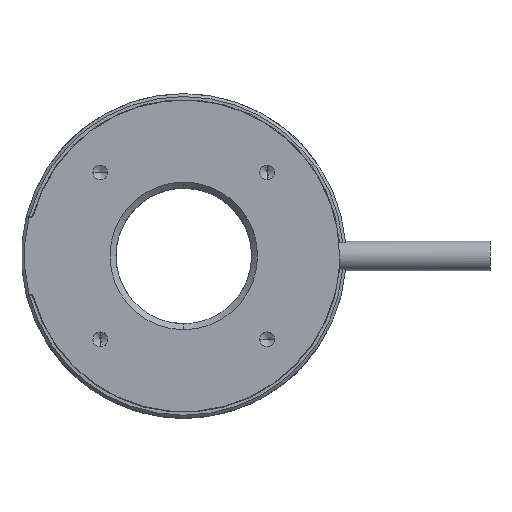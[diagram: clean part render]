
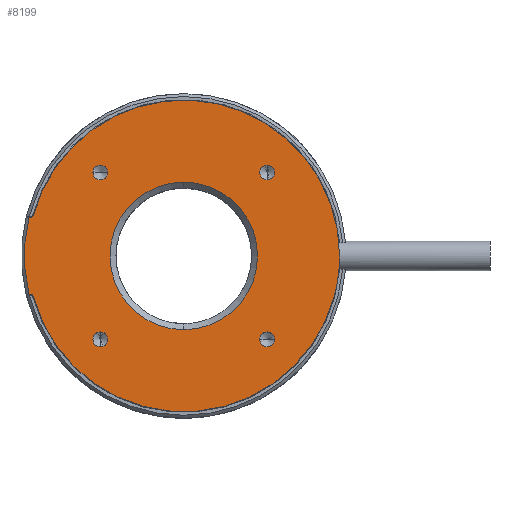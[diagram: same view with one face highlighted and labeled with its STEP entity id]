
A CAD part, top view. The second image highlights one B-rep face of the part: STEP entity #8199.
In plain terms, the highlighted planar face has unit normal (0, 0, 1).
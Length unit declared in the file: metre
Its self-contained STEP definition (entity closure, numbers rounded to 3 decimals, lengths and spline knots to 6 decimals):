
#1469=CARTESIAN_POINT('',(0.,0.,0.002));
#1470=DIRECTION('',(0.,0.,-1.));
#1471=DIRECTION('',(0.,1.,0.));
#1472=AXIS2_PLACEMENT_3D('',#1469,#1470,#1471);
#1474=CARTESIAN_POINT('',(0.,0.,0.002));
#1475=DIRECTION('',(0.,0.,-1.));
#1476=DIRECTION('',(0.,-1.,0.));
#1477=AXIS2_PLACEMENT_3D('',#1474,#1475,#1476);
#1479=CARTESIAN_POINT('',(0.014142,0.014142,0.002));
#1480=DIRECTION('',(0.,0.,-1.));
#1481=DIRECTION('',(0.,1.,0.));
#1482=AXIS2_PLACEMENT_3D('',#1479,#1480,#1481);
#1484=CARTESIAN_POINT('',(0.014142,0.014142,0.002));
#1485=DIRECTION('',(0.,0.,-1.));
#1486=DIRECTION('',(0.,-1.,0.));
#1487=AXIS2_PLACEMENT_3D('',#1484,#1485,#1486);
#1489=CARTESIAN_POINT('',(-0.014142,0.014142,0.002));
#1490=DIRECTION('',(0.,0.,-1.));
#1491=DIRECTION('',(-1.,0.,0.));
#1492=AXIS2_PLACEMENT_3D('',#1489,#1490,#1491);
#1494=CARTESIAN_POINT('',(-0.014142,0.014142,0.002));
#1495=DIRECTION('',(0.,0.,-1.));
#1496=DIRECTION('',(1.,0.,0.));
#1497=AXIS2_PLACEMENT_3D('',#1494,#1495,#1496);
#1499=CARTESIAN_POINT('',(-0.014142,-0.014142,0.002));
#1500=DIRECTION('',(0.,0.,-1.));
#1501=DIRECTION('',(0.,-1.,0.));
#1502=AXIS2_PLACEMENT_3D('',#1499,#1500,#1501);
#1504=CARTESIAN_POINT('',(-0.014142,-0.014142,0.002));
#1505=DIRECTION('',(0.,0.,-1.));
#1506=DIRECTION('',(0.,1.,0.));
#1507=AXIS2_PLACEMENT_3D('',#1504,#1505,#1506);
#1509=CARTESIAN_POINT('',(0.014142,-0.014142,0.002));
#1510=DIRECTION('',(0.,0.,-1.));
#1511=DIRECTION('',(1.,0.,0.));
#1512=AXIS2_PLACEMENT_3D('',#1509,#1510,#1511);
#1514=CARTESIAN_POINT('',(0.014142,-0.014142,0.002));
#1515=DIRECTION('',(0.,0.,-1.));
#1516=DIRECTION('',(-1.,0.,0.));
#1517=AXIS2_PLACEMENT_3D('',#1514,#1515,#1516);
#1519=CARTESIAN_POINT('',(-0.025973,0.007,0.002));
#1520=DIRECTION('',(0.,0.,-1.));
#1521=DIRECTION('',(0.966,-0.26,0.));
#1522=AXIS2_PLACEMENT_3D('',#1519,#1520,#1521);
#1524=CARTESIAN_POINT('',(0.,0.,0.002));
#1525=DIRECTION('',(0.,0.,1.));
#1526=DIRECTION('',(1.,0.,0.));
#1527=AXIS2_PLACEMENT_3D('',#1524,#1525,#1526);
#1529=CARTESIAN_POINT('',(0.,0.,0.002));
#1530=DIRECTION('',(0.,0.,1.));
#1531=DIRECTION('',(0.966,-0.26,0.));
#1532=AXIS2_PLACEMENT_3D('',#1529,#1530,#1531);
#1534=CARTESIAN_POINT('',(0.,0.,0.002));
#1535=DIRECTION('',(0.,0.,1.));
#1536=DIRECTION('',(-0.966,-0.26,0.));
#1537=AXIS2_PLACEMENT_3D('',#1534,#1535,#1536);
#1539=CARTESIAN_POINT('',(-0.025973,-0.007,0.002));
#1540=DIRECTION('',(0.,0.,-1.));
#1541=DIRECTION('',(0.,1.,0.));
#1542=AXIS2_PLACEMENT_3D('',#1539,#1540,#1541);
#1544=CARTESIAN_POINT('',(0.,0.,0.002));
#1545=DIRECTION('',(0.,0.,1.));
#1546=DIRECTION('',(-0.971,0.241,0.));
#1547=AXIS2_PLACEMENT_3D('',#1544,#1545,#1546);
#1661=DIRECTION('',(1.,0.,0.));
#1662=VECTOR('',#1661,0.000233);
#1663=CARTESIAN_POINT('',(-0.026206,0.0065,0.002));
#1664=LINE('',#1663,#1662);
#4640=DIRECTION('',(-1.,0.,0.));
#4641=VECTOR('',#4640,0.000233);
#4642=CARTESIAN_POINT('',(-0.025973,-0.0065,0.002));
#4643=LINE('',#4642,#4641);
#4949=CARTESIAN_POINT('',(-0.02549,-0.00687,0.002));
#4950=CARTESIAN_POINT('',(0.02549,-0.00687,0.002));
#4951=VERTEX_POINT('',#4949);
#4952=VERTEX_POINT('',#4950);
#4953=CARTESIAN_POINT('',(0.0264,0.,0.002));
#4954=VERTEX_POINT('',#4953);
#4955=CARTESIAN_POINT('',(-0.02549,0.00687,0.002));
#4956=VERTEX_POINT('',#4955);
#4957=CARTESIAN_POINT('',(-0.025973,-0.0065,0.002));
#4958=VERTEX_POINT('',#4957);
#4959=CARTESIAN_POINT('',(-0.026206,-0.0065,0.002));
#4960=VERTEX_POINT('',#4959);
#4961=CARTESIAN_POINT('',(-0.026206,0.0065,0.002));
#4962=VERTEX_POINT('',#4961);
#4963=CARTESIAN_POINT('',(-0.025973,0.0065,0.002));
#4964=VERTEX_POINT('',#4963);
#4965=CARTESIAN_POINT('',(0.012892,-0.014142,0.002));
#4966=CARTESIAN_POINT('',(0.015392,-0.014142,0.002));
#4967=VERTEX_POINT('',#4965);
#4968=VERTEX_POINT('',#4966);
#4969=CARTESIAN_POINT('',(-0.014142,-0.012892,0.002));
#4970=CARTESIAN_POINT('',(-0.014142,-0.015392,0.002));
#4971=VERTEX_POINT('',#4969);
#4972=VERTEX_POINT('',#4970);
#4973=CARTESIAN_POINT('',(-0.012892,0.014142,0.002));
#4974=CARTESIAN_POINT('',(-0.015392,0.014142,0.002));
#4975=VERTEX_POINT('',#4973);
#4976=VERTEX_POINT('',#4974);
#4977=CARTESIAN_POINT('',(0.014142,0.012892,0.002));
#4978=CARTESIAN_POINT('',(0.014142,0.015392,0.002));
#4979=VERTEX_POINT('',#4977);
#4980=VERTEX_POINT('',#4978);
#4981=CARTESIAN_POINT('',(0.,-0.0125,0.002));
#4982=CARTESIAN_POINT('',(0.,0.0125,0.002));
#4983=VERTEX_POINT('',#4981);
#4984=VERTEX_POINT('',#4982);
#8148=CARTESIAN_POINT('',(0.,0.,0.002));
#8149=DIRECTION('',(0.,0.,-1.));
#8150=DIRECTION('',(0.,1.,0.));
#8151=AXIS2_PLACEMENT_3D('',#8148,#8149,#8150);
#8152=PLANE('',#8151);
#8154=ORIENTED_EDGE('',*,*,#8153,.F.);
#8156=ORIENTED_EDGE('',*,*,#8155,.F.);
#8158=ORIENTED_EDGE('',*,*,#8157,.F.);
#8160=ORIENTED_EDGE('',*,*,#8159,.F.);
#8162=ORIENTED_EDGE('',*,*,#8161,.F.);
#8164=ORIENTED_EDGE('',*,*,#8163,.T.);
#8166=ORIENTED_EDGE('',*,*,#8165,.F.);
#8168=ORIENTED_EDGE('',*,*,#8167,.T.);
#8169=EDGE_LOOP('',(#8154,#8156,#8158,#8160,#8162,#8164,#8166,#8168));
#8170=FACE_OUTER_BOUND('',#8169,.F.);
#8172=ORIENTED_EDGE('',*,*,#8171,.F.);
#8174=ORIENTED_EDGE('',*,*,#8173,.F.);
#8175=EDGE_LOOP('',(#8172,#8174));
#8176=FACE_BOUND('',#8175,.F.);
#8178=ORIENTED_EDGE('',*,*,#8177,.F.);
#8180=ORIENTED_EDGE('',*,*,#8179,.F.);
#8181=EDGE_LOOP('',(#8178,#8180));
#8182=FACE_BOUND('',#8181,.F.);
#8184=ORIENTED_EDGE('',*,*,#8183,.F.);
#8186=ORIENTED_EDGE('',*,*,#8185,.F.);
#8187=EDGE_LOOP('',(#8184,#8186));
#8188=FACE_BOUND('',#8187,.F.);
#8190=ORIENTED_EDGE('',*,*,#8189,.F.);
#8192=ORIENTED_EDGE('',*,*,#8191,.F.);
#8193=EDGE_LOOP('',(#8190,#8192));
#8194=FACE_BOUND('',#8193,.F.);
#8195=ORIENTED_EDGE('',*,*,#8141,.F.);
#8196=ORIENTED_EDGE('',*,*,#8127,.F.);
#8197=EDGE_LOOP('',(#8195,#8196));
#8198=FACE_BOUND('',#8197,.F.);
#8199=ADVANCED_FACE('',(#8170,#8176,#8182,#8188,#8194,#8198),#8152,.F.);
#1473=CIRCLE('',#1472,0.0125);
#1478=CIRCLE('',#1477,0.0125);
#1483=CIRCLE('',#1482,0.00125);
#1488=CIRCLE('',#1487,0.00125);
#1493=CIRCLE('',#1492,0.00125);
#1498=CIRCLE('',#1497,0.00125);
#1503=CIRCLE('',#1502,0.00125);
#1508=CIRCLE('',#1507,0.00125);
#1513=CIRCLE('',#1512,0.00125);
#1518=CIRCLE('',#1517,0.00125);
#1523=CIRCLE('',#1522,0.0005);
#1528=CIRCLE('',#1527,0.0264);
#1533=CIRCLE('',#1532,0.0264);
#1538=CIRCLE('',#1537,0.0264);
#1543=CIRCLE('',#1542,0.0005);
#1548=CIRCLE('',#1547,0.027);
#8127=EDGE_CURVE('',#4983,#4984,#1478,.T.);
#8141=EDGE_CURVE('',#4984,#4983,#1473,.T.);
#8153=EDGE_CURVE('',#4956,#4964,#1523,.T.);
#8155=EDGE_CURVE('',#4954,#4956,#1528,.T.);
#8157=EDGE_CURVE('',#4952,#4954,#1533,.T.);
#8159=EDGE_CURVE('',#4951,#4952,#1538,.T.);
#8161=EDGE_CURVE('',#4958,#4951,#1543,.T.);
#8163=EDGE_CURVE('',#4958,#4960,#4643,.T.);
#8165=EDGE_CURVE('',#4962,#4960,#1548,.T.);
#8167=EDGE_CURVE('',#4962,#4964,#1664,.T.);
#8171=EDGE_CURVE('',#4980,#4979,#1483,.T.);
#8173=EDGE_CURVE('',#4979,#4980,#1488,.T.);
#8177=EDGE_CURVE('',#4976,#4975,#1493,.T.);
#8179=EDGE_CURVE('',#4975,#4976,#1498,.T.);
#8183=EDGE_CURVE('',#4972,#4971,#1503,.T.);
#8185=EDGE_CURVE('',#4971,#4972,#1508,.T.);
#8189=EDGE_CURVE('',#4968,#4967,#1513,.T.);
#8191=EDGE_CURVE('',#4967,#4968,#1518,.T.);
